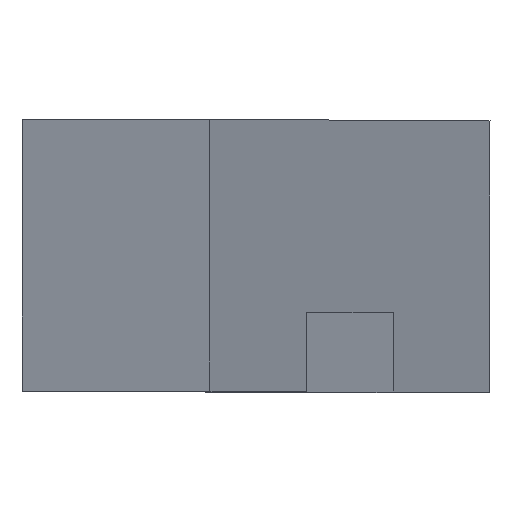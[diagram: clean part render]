
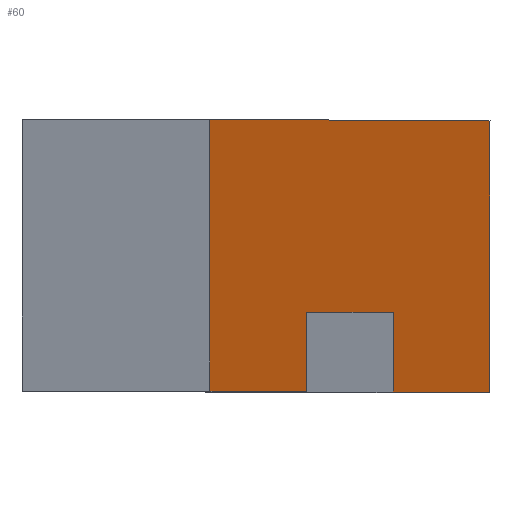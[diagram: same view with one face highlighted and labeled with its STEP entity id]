
A CAD part, top view. The second image highlights one B-rep face of the part: STEP entity #60.
In plain terms, the highlighted planar face has unit normal (0.946, 0, 0.325).
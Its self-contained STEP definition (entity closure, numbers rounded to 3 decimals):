
#60=ADVANCED_FACE('',(#81),#82,.F.);
#81=FACE_OUTER_BOUND('',#102,.T.);
#82=PLANE('',#103);
#102=EDGE_LOOP('',(#172,#173,#174,#175,#176,#177,#178,#179));
#103=AXIS2_PLACEMENT_3D('',#180,#181,#182);
#172=ORIENTED_EDGE('',*,*,#187,.F.);
#173=ORIENTED_EDGE('',*,*,#206,.F.);
#174=ORIENTED_EDGE('',*,*,#207,.F.);
#175=ORIENTED_EDGE('',*,*,#198,.F.);
#176=ORIENTED_EDGE('',*,*,#191,.F.);
#177=ORIENTED_EDGE('',*,*,#204,.T.);
#178=ORIENTED_EDGE('',*,*,#200,.T.);
#179=ORIENTED_EDGE('',*,*,#203,.T.);
#180=CARTESIAN_POINT('',(211.431,31.5,-12.424));
#181=DIRECTION('',(-0.946,0.,-0.325));
#182=DIRECTION('',(0.325,0.0,-0.946));
#187=EDGE_CURVE('',#213,#209,#215,.T.);
#191=EDGE_CURVE('',#221,#216,#223,.T.);
#198=EDGE_CURVE('',#216,#234,#235,.T.);
#200=EDGE_CURVE('',#237,#238,#239,.T.);
#203=EDGE_CURVE('',#238,#209,#242,.T.);
#204=EDGE_CURVE('',#221,#237,#243,.T.);
#206=EDGE_CURVE('',#244,#213,#246,.T.);
#207=EDGE_CURVE('',#234,#244,#247,.T.);
#209=VERTEX_POINT('',#249);
#213=VERTEX_POINT('',#255);
#215=LINE('',#258,#259);
#216=VERTEX_POINT('',#260);
#221=VERTEX_POINT('',#267);
#223=LINE('',#270,#271);
#234=VERTEX_POINT('',#288);
#235=LINE('',#289,#290);
#237=VERTEX_POINT('',#293);
#238=VERTEX_POINT('',#294);
#239=LINE('',#295,#296);
#242=LINE('',#301,#302);
#243=LINE('',#303,#304);
#244=VERTEX_POINT('',#305);
#246=LINE('',#308,#309);
#247=LINE('',#310,#311);
#249=CARTESIAN_POINT('',(212.081,30.9,-14.315));
#255=CARTESIAN_POINT('',(213.544,30.9,-18.569));
#258=CARTESIAN_POINT('',(211.431,30.9,-12.424));
#259=VECTOR('',#315,1.0);
#260=CARTESIAN_POINT('',(209.318,30.9,-6.279));
#267=CARTESIAN_POINT('',(210.781,30.9,-10.533));
#270=CARTESIAN_POINT('',(211.431,30.9,-12.424));
#271=VECTOR('',#319,1.0);
#288=CARTESIAN_POINT('',(209.318,35.,-6.279));
#289=CARTESIAN_POINT('',(209.318,28.,-6.279));
#290=VECTOR('',#326,1.);
#293=CARTESIAN_POINT('',(210.781,32.1,-10.533));
#294=CARTESIAN_POINT('',(212.081,32.1,-14.315));
#295=CARTESIAN_POINT('',(211.106,32.1,-11.478));
#296=VECTOR('',#328,1.);
#301=CARTESIAN_POINT('',(212.081,31.8,-14.315));
#302=VECTOR('',#331,1.);
#303=CARTESIAN_POINT('',(210.781,31.2,-10.533));
#304=VECTOR('',#332,1.);
#305=CARTESIAN_POINT('',(213.544,35.,-18.569));
#308=CARTESIAN_POINT('',(213.544,35.,-18.569));
#309=VECTOR('',#334,1.);
#310=CARTESIAN_POINT('',(209.318,35.,-6.279));
#311=VECTOR('',#335,1.);
#315=DIRECTION('',(-0.325,0.0,0.946));
#319=DIRECTION('',(-0.325,0.0,0.946));
#326=DIRECTION('',(0.,1.0,0.));
#328=DIRECTION('',(0.325,0.,-0.946));
#331=DIRECTION('',(0.,-1.0,0.));
#332=DIRECTION('',(0.,1.0,0.));
#334=DIRECTION('',(0.,-1.0,0.));
#335=DIRECTION('',(0.325,0.0,-0.946));
